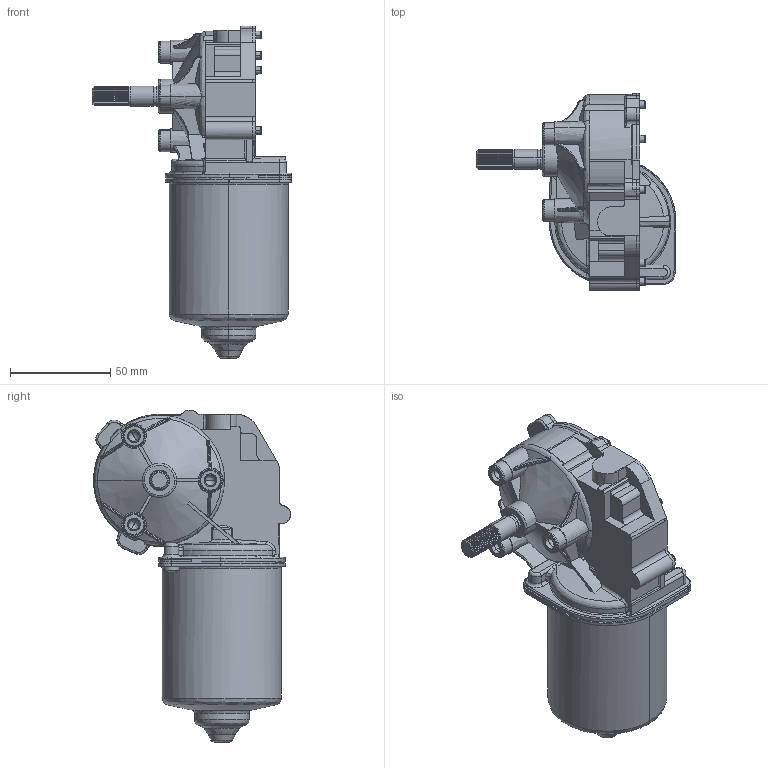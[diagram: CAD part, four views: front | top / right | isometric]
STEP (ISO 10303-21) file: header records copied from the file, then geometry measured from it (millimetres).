
FILE_DESCRIPTION (( 'STEP AP214' ), '1' );
FILE_NAME ('405006.step', '2018-03-15T08:13:23', ( '' ), ( '' ), 'SwSTEP 2.0', 'SolidWorks 2010', '' );
FILE_SCHEMA (( 'AUTOMOTIVE_DESIGN' ));
Products named in the file (3): Motor-DCK31-Left-KGK; Shaft-W277-KGK; 405006
Assembly tree (2 placements, depth 2):
  405006
    Motor-DCK31-Left-KGK
    Shaft-W277-KGK
Bounding box: 99.5 x 98.05 x 165.2 mm (x, y, z)
Volume: 224618.3 mm3; surface area: 68569.7 mm2
Topology: 2 solids, 2 shells, 768 faces, 2478 edges, 1725 vertices
Faces by surface type: bspline 446, plane 283, cylinder 37, cone 2
Entity records: 53340 total; most frequent: CARTESIAN_POINT 36649, ORIENTED_EDGE 4918, EDGE_CURVE 2459, B_SPLINE_CURVE_WITH_KNOTS 2076, VERTEX_POINT 1725, DIRECTION 1170, EDGE_LOOP 806, FACE_OUTER_BOUND 768
